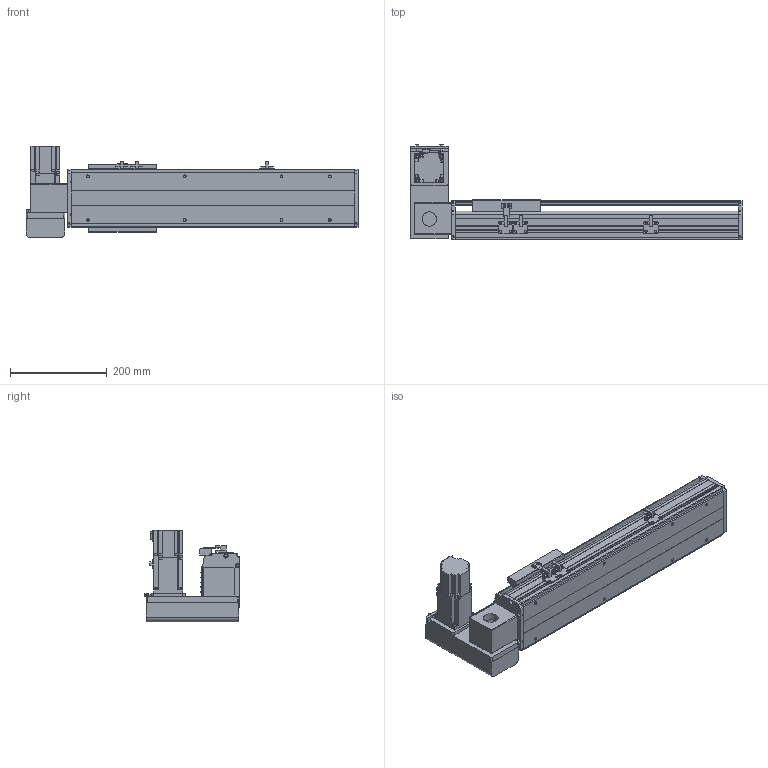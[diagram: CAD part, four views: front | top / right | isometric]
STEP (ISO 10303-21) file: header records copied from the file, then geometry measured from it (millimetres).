
FILE_DESCRIPTION(/* description */ ('STEP AP214'),/* implementation_level */ '2;1');
FILE_NAME(/* name */ 'PBS120-P40-S300-LU-T40-C1-N(0)',/* time_stamp */ '2022-06-06T02:30:12+02:00',/* author */ ('License CC BY-ND 4.0'),/* organization */ ('CADENAS'),/* preprocessor_version */ 'ST-DEVELOPER v18.102',/* originating_system */ 'PARTsolutions',/* authorisation */ ' ');
FILE_SCHEMA (('AUTOMOTIVE_DESIGN {1 0 10303 214 3 1 1}'));
Length unit declared in the file: millimetre
Products named in the file (7): PBS120-P40-S300-LU-T40-C1-N(0); PBS120_sensor; PBS120_plant; PBS120_sliser; T40-p1; PBS120T-LU_motors; PBS120-S300()_body
Assembly tree (8 placements, depth 2):
  PBS120-P40-S300-LU-T40-C1-N(0)
    PBS120_sensor  x3
    PBS120_plant
    PBS120_sliser
    T40-p1
    PBS120T-LU_motors
    PBS120-S300()_body
Bounding box: 686 x 198 x 189.7 mm (x, y, z)
Volume: 3682724.3 mm3; surface area: 661106.4 mm2
Topology: 8 solids, 8 shells, 804 faces, 2116 edges, 1363 vertices
Faces by surface type: plane 541, cylinder 221, cone 40, torus 2
Full cylindrical faces by diameter (mm): 2.459 x6, 3.242 x4, 4 x2, 4.134 x4, 4.5 x10, 4.917 x12, 5.5 x11, 6 x2, 6.6 x1, 7 x2, 8.5 x4, 9 x4, 12 x1, 14 x1, 30 x2, 40 x1, 50 x2
Entity records: 21114 total; most frequent: DIRECTION 3644, CARTESIAN_POINT 3605, ORIENTED_EDGE 3454, EDGE_CURVE 1727, LINE 1228, VECTOR 1228, AXIS2_PLACEMENT_3D 1208, VERTEX_POINT 1169
